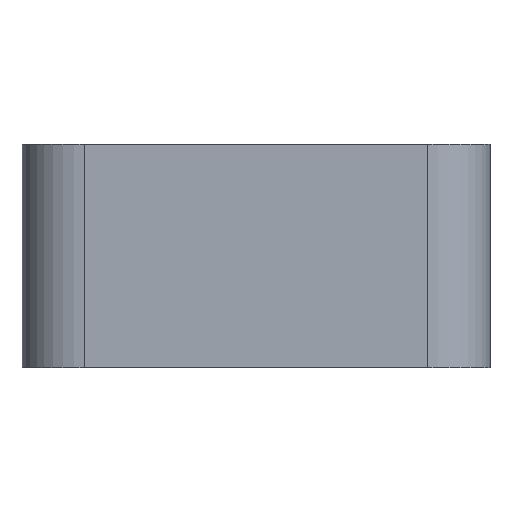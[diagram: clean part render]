
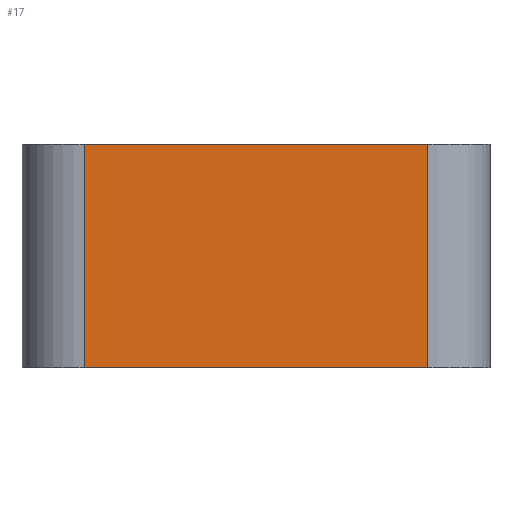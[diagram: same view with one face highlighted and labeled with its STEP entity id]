
A CAD part, left-side view. The second image highlights one B-rep face of the part: STEP entity #17.
In plain terms, the highlighted planar face has unit normal (-1, 0, 0).
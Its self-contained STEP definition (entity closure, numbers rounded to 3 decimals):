
#17 = ADVANCED_FACE('',(#18),#32,.F.);
#18 = FACE_BOUND('',#19,.F.);
#19 = EDGE_LOOP('',(#20,#55,#83,#111));
#20 = ORIENTED_EDGE('',*,*,#21,.F.);
#21 = EDGE_CURVE('',#22,#24,#26,.T.);
#22 = VERTEX_POINT('',#23);
#23 = CARTESIAN_POINT('',(-2.,-1.1,1.43));
#24 = VERTEX_POINT('',#25);
#25 = CARTESIAN_POINT('',(-2.,1.1,1.43));
#26 = SURFACE_CURVE('',#27,(#31,#43),.PCURVE_S1.);
#27 = LINE('',#28,#29);
#28 = CARTESIAN_POINT('',(-2.,-1.5,1.43));
#29 = VECTOR('',#30,1.);
#30 = DIRECTION('',(0.,1.,0.));
#31 = PCURVE('',#32,#37);
#32 = PLANE('',#33);
#33 = AXIS2_PLACEMENT_3D('',#34,#35,#36);
#34 = CARTESIAN_POINT('',(-2.,-1.5,0.));
#35 = DIRECTION('',(1.,0.,0.));
#36 = DIRECTION('',(0.,0.,1.));
#37 = DEFINITIONAL_REPRESENTATION('',(#38),#42);
#38 = LINE('',#39,#40);
#39 = CARTESIAN_POINT('',(1.43,0.));
#40 = VECTOR('',#41,1.);
#41 = DIRECTION('',(0.,-1.));
#42 = ( GEOMETRIC_REPRESENTATION_CONTEXT(2) 
PARAMETRIC_REPRESENTATION_CONTEXT() REPRESENTATION_CONTEXT('2D SPACE',''
  ) );
#43 = PCURVE('',#44,#49);
#44 = PLANE('',#45);
#45 = AXIS2_PLACEMENT_3D('',#46,#47,#48);
#46 = CARTESIAN_POINT('',(-2.,-1.5,1.43));
#47 = DIRECTION('',(0.,0.,1.));
#48 = DIRECTION('',(1.,0.,0.));
#49 = DEFINITIONAL_REPRESENTATION('',(#50),#54);
#50 = LINE('',#51,#52);
#51 = CARTESIAN_POINT('',(0.,0.));
#52 = VECTOR('',#53,1.);
#53 = DIRECTION('',(0.,1.));
#54 = ( GEOMETRIC_REPRESENTATION_CONTEXT(2) 
PARAMETRIC_REPRESENTATION_CONTEXT() REPRESENTATION_CONTEXT('2D SPACE',''
  ) );
#55 = ORIENTED_EDGE('',*,*,#56,.F.);
#56 = EDGE_CURVE('',#57,#22,#59,.T.);
#57 = VERTEX_POINT('',#58);
#58 = CARTESIAN_POINT('',(-2.,-1.1,0.));
#59 = SURFACE_CURVE('',#60,(#64,#71),.PCURVE_S1.);
#60 = LINE('',#61,#62);
#61 = CARTESIAN_POINT('',(-2.,-1.1,0.));
#62 = VECTOR('',#63,1.);
#63 = DIRECTION('',(0.,0.,1.));
#64 = PCURVE('',#32,#65);
#65 = DEFINITIONAL_REPRESENTATION('',(#66),#70);
#66 = LINE('',#67,#68);
#67 = CARTESIAN_POINT('',(0.,-0.4));
#68 = VECTOR('',#69,1.);
#69 = DIRECTION('',(1.,0.));
#70 = ( GEOMETRIC_REPRESENTATION_CONTEXT(2) 
PARAMETRIC_REPRESENTATION_CONTEXT() REPRESENTATION_CONTEXT('2D SPACE',''
  ) );
#71 = PCURVE('',#72,#77);
#72 = CYLINDRICAL_SURFACE('',#73,0.4);
#73 = AXIS2_PLACEMENT_3D('',#74,#75,#76);
#74 = CARTESIAN_POINT('',(-1.6,-1.1,0.));
#75 = DIRECTION('',(0.,0.,1.));
#76 = DIRECTION('',(-1.,-0.,0.));
#77 = DEFINITIONAL_REPRESENTATION('',(#78),#82);
#78 = LINE('',#79,#80);
#79 = CARTESIAN_POINT('',(0.,0.));
#80 = VECTOR('',#81,1.);
#81 = DIRECTION('',(0.,1.));
#82 = ( GEOMETRIC_REPRESENTATION_CONTEXT(2) 
PARAMETRIC_REPRESENTATION_CONTEXT() REPRESENTATION_CONTEXT('2D SPACE',''
  ) );
#83 = ORIENTED_EDGE('',*,*,#84,.T.);
#84 = EDGE_CURVE('',#57,#85,#87,.T.);
#85 = VERTEX_POINT('',#86);
#86 = CARTESIAN_POINT('',(-2.,1.1,0.));
#87 = SURFACE_CURVE('',#88,(#92,#99),.PCURVE_S1.);
#88 = LINE('',#89,#90);
#89 = CARTESIAN_POINT('',(-2.,-1.5,0.));
#90 = VECTOR('',#91,1.);
#91 = DIRECTION('',(0.,1.,0.));
#92 = PCURVE('',#32,#93);
#93 = DEFINITIONAL_REPRESENTATION('',(#94),#98);
#94 = LINE('',#95,#96);
#95 = CARTESIAN_POINT('',(0.,0.));
#96 = VECTOR('',#97,1.);
#97 = DIRECTION('',(0.,-1.));
#98 = ( GEOMETRIC_REPRESENTATION_CONTEXT(2) 
PARAMETRIC_REPRESENTATION_CONTEXT() REPRESENTATION_CONTEXT('2D SPACE',''
  ) );
#99 = PCURVE('',#100,#105);
#100 = PLANE('',#101);
#101 = AXIS2_PLACEMENT_3D('',#102,#103,#104);
#102 = CARTESIAN_POINT('',(-2.,-1.5,0.));
#103 = DIRECTION('',(0.,0.,1.));
#104 = DIRECTION('',(1.,0.,0.));
#105 = DEFINITIONAL_REPRESENTATION('',(#106),#110);
#106 = LINE('',#107,#108);
#107 = CARTESIAN_POINT('',(0.,0.));
#108 = VECTOR('',#109,1.);
#109 = DIRECTION('',(0.,1.));
#110 = ( GEOMETRIC_REPRESENTATION_CONTEXT(2) 
PARAMETRIC_REPRESENTATION_CONTEXT() REPRESENTATION_CONTEXT('2D SPACE',''
  ) );
#111 = ORIENTED_EDGE('',*,*,#112,.T.);
#112 = EDGE_CURVE('',#85,#24,#113,.T.);
#113 = SURFACE_CURVE('',#114,(#118,#125),.PCURVE_S1.);
#114 = LINE('',#115,#116);
#115 = CARTESIAN_POINT('',(-2.,1.1,0.));
#116 = VECTOR('',#117,1.);
#117 = DIRECTION('',(0.,0.,1.));
#118 = PCURVE('',#32,#119);
#119 = DEFINITIONAL_REPRESENTATION('',(#120),#124);
#120 = LINE('',#121,#122);
#121 = CARTESIAN_POINT('',(0.,-2.6));
#122 = VECTOR('',#123,1.);
#123 = DIRECTION('',(1.,0.));
#124 = ( GEOMETRIC_REPRESENTATION_CONTEXT(2) 
PARAMETRIC_REPRESENTATION_CONTEXT() REPRESENTATION_CONTEXT('2D SPACE',''
  ) );
#125 = PCURVE('',#126,#131);
#126 = CYLINDRICAL_SURFACE('',#127,0.4);
#127 = AXIS2_PLACEMENT_3D('',#128,#129,#130);
#128 = CARTESIAN_POINT('',(-1.6,1.1,0.));
#129 = DIRECTION('',(0.,0.,1.));
#130 = DIRECTION('',(-1.,-0.,0.));
#131 = DEFINITIONAL_REPRESENTATION('',(#132),#136);
#132 = LINE('',#133,#134);
#133 = CARTESIAN_POINT('',(-0.,0.));
#134 = VECTOR('',#135,1.);
#135 = DIRECTION('',(-0.,1.));
#136 = ( GEOMETRIC_REPRESENTATION_CONTEXT(2) 
PARAMETRIC_REPRESENTATION_CONTEXT() REPRESENTATION_CONTEXT('2D SPACE',''
  ) );
